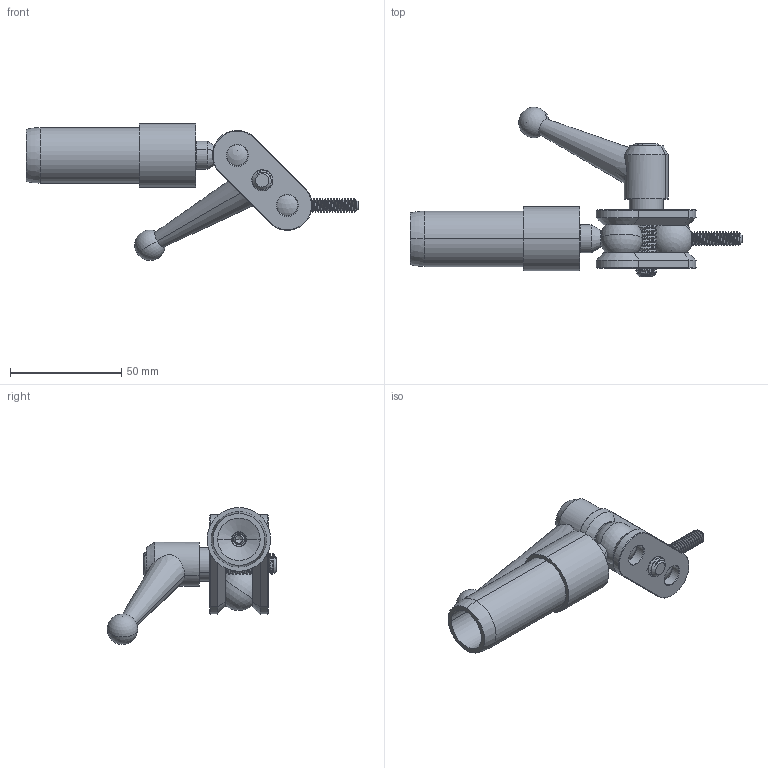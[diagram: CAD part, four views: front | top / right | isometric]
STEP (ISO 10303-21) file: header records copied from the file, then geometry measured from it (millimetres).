
FILE_DESCRIPTION (( 'STEP AP214' ), '1' );
FILE_NAME ('1 Inch Adjustable Swivel Mount Connector.STEP', '2014-01-10T16:39:30', ( 'ydmin' ), ( 'Microsoft' ), 'SwSTEP 2.0', 'SolidWorks 2013', '' );
FILE_SCHEMA (( 'AUTOMOTIVE_DESIGN' ));
Length unit declared in the file: inch
Products named in the file (1): 1 Inch Adjustable Swivel Mount Connector
Bounding box: 149.03 x 76.2 x 61.46 mm (x, y, z)
Volume: 61112.9 mm3; surface area: 29427.5 mm2
Topology: 12 solids, 12 shells, 466 faces, 1231 edges, 778 vertices
Faces by surface type: cylinder 242, cone 87, bspline 70, plane 59, sphere 6, torus 2
Entity records: 82193 total; most frequent: CARTESIAN_POINT 67235, ORIENTED_EDGE 2408, DIRECTION 1547, EDGE_CURVE 1204, VERTEX_POINT 769, AXIS2_PLACEMENT_3D 580, EDGE_LOOP 489, ADVANCED_FACE 466
